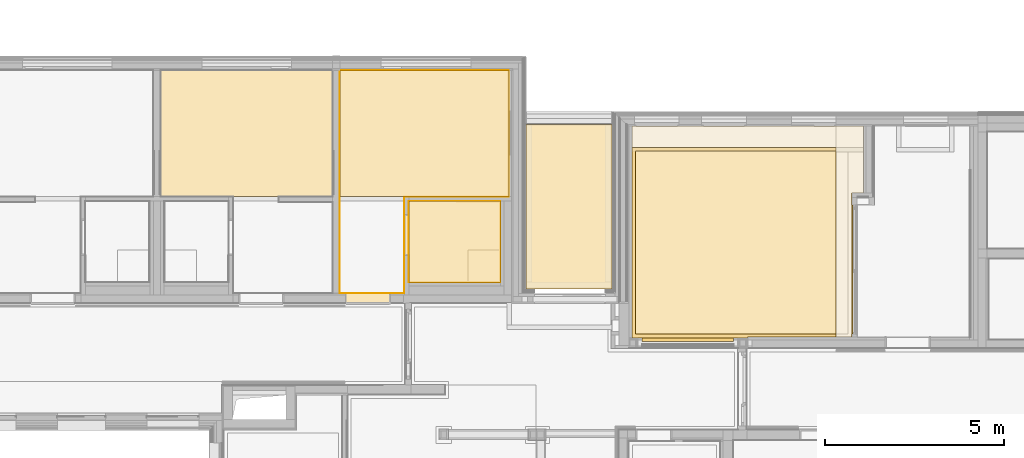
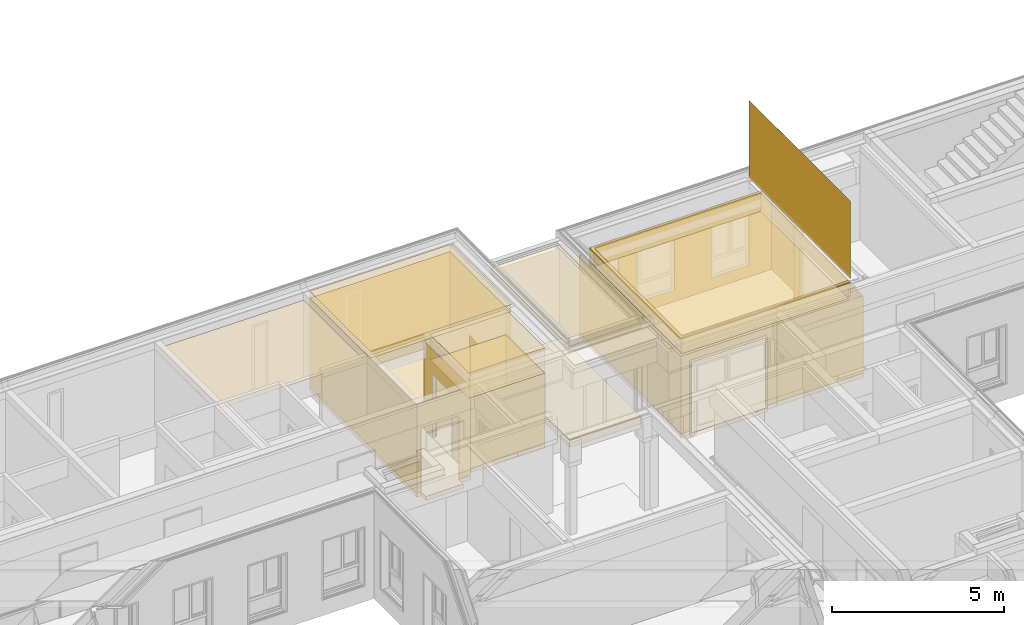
# One storey, part 179 of 222: 30 coverings.
"""IFC4 building model written with IfcOpenShell, lengths in metres."""

from ifc_helpers import new_model, entity, si_unit, converted_unit, derived_unit, frame, frame_2d, origin, place, context, subcontext, project, spatial, polyline, rectangle, outline, extrude, material, layer, layer_set, layer_usage, element, save


model = new_model("IFC4")

# Units and contexts
model_context = context("Model", 3, precision=1e-05, world=origin())
body_context = subcontext(model_context, "Body", "Model", "MODEL_VIEW")
ifc_project = project(units=[si_unit("LENGTHUNIT", "METRE"), si_unit("AREAUNIT", "SQUARE_METRE"), si_unit("VOLUMEUNIT", "CUBIC_METRE"), si_unit("MASSUNIT", "GRAM", prefix="KILO"), converted_unit("PLANEANGLEUNIT", "DEGREE", entity("IfcPlaneAngleMeasure", 0.0174532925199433), si_unit("PLANEANGLEUNIT", "RADIAN"), dimensions=[0, 0, 0, 0, 0, 0, 0]), derived_unit("THERMALTRANSMITTANCEUNIT", [(si_unit("POWERUNIT", "WATT"), 1), (si_unit("THERMODYNAMICTEMPERATUREUNIT", "KELVIN"), -1), (si_unit("LENGTHUNIT", "METRE"), -2)]), derived_unit("VOLUMETRICFLOWRATEUNIT", [(si_unit("LENGTHUNIT", "METRE"), 3), (converted_unit("TIMEUNIT", "hour", entity("IfcTimeMeasure", 3600.0), si_unit("TIMEUNIT", "SECOND"), dimensions=[0, 0, 1, 0, 0, 0, 0]), -1), (si_unit("LENGTHUNIT", "METRE"), -1)])], contexts=[model_context])

# Site, building, storey, space
site_placement = place(None, origin())
site = spatial("IfcSite", under=ifc_project, at=site_placement, Name="Psychiatrie Neubau Wunstorf", CompositionType="ELEMENT")
building_placement = place(site_placement, origin())
building = spatial("IfcBuilding", under=site, at=building_placement, Name="Neubau H2 Stationsgebäude", CompositionType="ELEMENT")
storey_placement = place(building_placement, frame((0.0, 0.0, 3.6)))
storey = spatial("IfcBuildingStorey", under=building, at=storey_placement, Name="H2 Ebene +1", CompositionType="ELEMENT", Elevation=3.6)
space_1_placement = place(storey_placement, frame((35.2910006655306, 24.5160036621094, -0.128)))
space_1 = spatial("IfcSpace", under=storey, at=space_1_placement, Name="WUN-H2-E01-L01", CompositionType="ELEMENT")

# Coverings
ifc_material_1 = material(Name="Installationshöhe")
ifc_layer_1 = layer(ifc_material_1, 0.18)
ifc_layer_set_1 = layer_set([ifc_layer_1])
ifc_layer_usage_1 = layer_usage(ifc_layer_set_1, "AXIS3", "POSITIVE", 0.0)
covering_1_placement = place(space_1_placement, frame((0.0, 0.0, 3.598)))
element("IfcCovering", 1, at=covering_1_placement, inside=space_1, material=ifc_layer_usage_1, PredefinedType="CEILING", context=body_context, shape_type="SweptSolid", body=[
    extrude(rectangle(XDim=2.39449933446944, YDim=4.58149623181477, at=frame_2d((1.19724966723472, 2.29074811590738), x_axis=(1.0, 0.0))), frame((0.0, 4.58149623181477, 0.0), z_axis=(0.0, 0.0, -1.0), x_axis=(1.0, 0.0, 0.0)), (0.0, 0.0, 1.0), 0.18),
])
ifc_material_2 = material(Name="-")
ifc_layer_2 = layer(ifc_material_2, 0.045)
ifc_layer_set_2 = layer_set([ifc_layer_2])
ifc_layer_usage_2 = layer_usage(ifc_layer_set_2, "AXIS3", "POSITIVE", 0.0)
covering_2_placement = place(space_1_placement, frame((0.0, 0.0, 3.418)))
element("IfcCovering", 2, at=covering_2_placement, inside=space_1, material=ifc_layer_usage_2, PredefinedType="CEILING", context=body_context, shape_type="SweptSolid", body=[
    extrude(rectangle(XDim=2.39449933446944, YDim=4.58149623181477, at=frame_2d((1.19724966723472, 2.29074811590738), x_axis=(1.0, 0.0))), frame((0.0, 4.58149623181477, 0.0), z_axis=(0.0, 0.0, -1.0), x_axis=(1.0, 0.0, 0.0)), (0.0, 0.0, 1.0), 0.045),
])
ifc_material_3 = material()
ifc_layer_3 = layer(ifc_material_3, 0.25)
ifc_layer_set_3 = layer_set([ifc_layer_3])
ifc_layer_usage_3 = layer_usage(ifc_layer_set_3, "AXIS3", "POSITIVE", 0.0)
covering_3_placement = place(space_1_placement, origin())
element("IfcCovering", 3, at=covering_3_placement, inside=space_1, material=ifc_layer_usage_3, Name="Unterbodenaufbau (Stelzen + Estrich)", PredefinedType="FLOORING", context=body_context, shape_type="SweptSolid", body=[
    extrude(rectangle(XDim=2.39449933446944, YDim=4.58149623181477, at=frame_2d((-1.19724966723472, -2.29074811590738), x_axis=(-1.0, 0.0))), frame((2.39449933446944, 4.58149623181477, 0.0), z_axis=(0.0, 0.0, 1.0), x_axis=(1.0, 0.0, 0.0)), (0.0, 0.0, 1.0), 0.25),
])
ifc_material_4 = material(Name="FP2")
ifc_layer_4 = layer(ifc_material_4, 0.03)
ifc_layer_set_4 = layer_set([ifc_layer_4])
ifc_layer_usage_4 = layer_usage(ifc_layer_set_4, "AXIS3", "POSITIVE", 0.0)
covering_4_placement = place(space_1_placement, frame((0.0, 0.0, 0.25)))
element("IfcCovering", 4, at=covering_4_placement, inside=space_1, material=ifc_layer_usage_4, Name="Feinsteinzeugplatten 40x40x3", PredefinedType="FLOORING", context=body_context, shape_type="SweptSolid", body=[
    extrude(rectangle(XDim=2.39449933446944, YDim=4.58149623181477, at=frame_2d((-1.19724966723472, -2.29074811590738), x_axis=(-1.0, 0.0))), frame((2.39449933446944, 4.58149623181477, 0.0), z_axis=(0.0, 0.0, 1.0), x_axis=(1.0, 0.0, 0.0)), (0.0, 0.0, 1.0), 0.03),
])

# Space
space_2_placement = place(storey_placement, frame((30.1, 24.3895, 0.0)))
space_2 = spatial("IfcSpace", under=storey, at=space_2_placement, Name="WUN-H2-E01-047", CompositionType="ELEMENT")

# Coverings
ifc_material_5 = material(Name="84")
ifc_layer_5 = layer(ifc_material_5, 0.001)
ifc_layer_set_5 = layer_set([ifc_layer_5])
ifc_layer_usage_5 = layer_usage(ifc_layer_set_5, "AXIS3", "POSITIVE", 0.0)
covering_5_placement = place(space_2_placement, frame((4.714, 3.73450366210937, 0.1)))
element("IfcCovering", 5, at=covering_5_placement, inside=space_2, material=ifc_layer_usage_5, Name="Acrovyn", PredefinedType="CLADDING", context=body_context, shape_type="SweptSolid", body=[
    extrude(rectangle(XDim=1.4, YDim=0.9, at=frame_2d((0.7, -0.45), x_axis=(1.0, 0.0))), frame((0.0, 0.0, 0.0), z_axis=(-1.0, 0.0, 0.0), x_axis=(0.0, 1.0, 0.0)), (0.0, 0.0, 1.0), 0.001),
])
ifc_material_6 = material(Name="Ku1")
ifc_layer_6 = layer(ifc_material_6, 0.15)
ifc_layer_set_6 = layer_set([ifc_layer_6])
ifc_layer_usage_6 = layer_usage(ifc_layer_set_6, "AXIS3", "POSITIVE", 0.0)
covering_6_placement = place(space_2_placement, frame((0.0, -0.271999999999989, 0.0)))
element("IfcCovering", 6, at=covering_6_placement, inside=space_2, material=ifc_layer_usage_6, Name="PVC Bahnenware Holzoptik", PredefinedType="FLOORING", context=body_context, shape_type="SweptSolid", body=[
    extrude(rectangle(XDim=0.271999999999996, YDim=1.26, at=frame_2d((0.63, -0.135999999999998), x_axis=(0.0, -1.0))), frame((0.150000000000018, 0.271999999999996, 0.0), z_axis=(0.0, 0.0, 1.0), x_axis=(1.0, 0.0, 0.0)), (0.0, 0.0, 1.0), 0.15),
    extrude(outline(polyline([(0.0, 6.22100366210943), (0.0, 0.0), (1.79800000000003, 0.0), (1.79800000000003, 2.70000000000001), (4.71400000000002, 2.70000000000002), (4.714, 6.22100366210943), (0.0, 6.22100366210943)])), frame((0.0, 0.271999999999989, 0.0), z_axis=(0.0, 0.0, 1.0), x_axis=(1.0, 0.0, 0.0)), (0.0, 0.0, 1.0), 0.15),
])
ifc_material_7 = material()
ifc_layer_7 = layer(ifc_material_7, 0.036)
ifc_layer_set_7 = layer_set([ifc_layer_7])
ifc_layer_usage_7 = layer_usage(ifc_layer_set_7, "AXIS3", "POSITIVE", 0.0)
covering_7_placement = place(space_2_placement, frame((0.0, 2.70000000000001, 3.55)))
element("IfcCovering", 7, at=covering_7_placement, inside=space_2, material=ifc_layer_usage_7, Name="Gipsfaserplatten 2-lagig (BSK)", PredefinedType="CEILING", context=body_context, shape_type="SweptSolid", body=[
    extrude(rectangle(XDim=3.52100366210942, YDim=4.714, at=frame_2d((2.35699999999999, -1.76050183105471), x_axis=(-4.13288841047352e-15, -1.0))), frame((0.0, 0.0, 0.0), z_axis=(0.0, 0.0, -1.0), x_axis=(1.0, 0.0, 0.0)), (0.0, 0.0, 1.0), 0.036),
])
ifc_material_8 = material(Name="Installationshöhe")
ifc_layer_8 = layer(ifc_material_8, 0.114)
ifc_layer_set_8 = layer_set([ifc_layer_8])
ifc_layer_usage_8 = layer_usage(ifc_layer_set_8, "AXIS3", "POSITIVE", 0.0)
covering_8_placement = place(space_2_placement, frame((0.0, 2.70000000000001, 3.514)))
element("IfcCovering", 8, at=covering_8_placement, inside=space_2, material=ifc_layer_usage_8, Name="Gipsfaserplatten 2-lagig (BSK)", PredefinedType="CEILING", context=body_context, shape_type="SweptSolid", body=[
    extrude(rectangle(XDim=3.52100366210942, YDim=4.714, at=frame_2d((2.35699999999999, -1.76050183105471), x_axis=(-4.13288841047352e-15, -1.0))), frame((0.0, 0.0, 0.0), z_axis=(0.0, 0.0, -1.0), x_axis=(1.0, 0.0, 0.0)), (0.0, 0.0, 1.0), 0.114),
])
ifc_material_9 = material(Name="A1")
ifc_layer_9 = layer(ifc_material_9, 0.1)
ifc_layer_set_9 = layer_set([ifc_layer_9])
ifc_layer_usage_9 = layer_usage(ifc_layer_set_9, "AXIS3", "POSITIVE", 0.0)
covering_9_placement = place(space_2_placement, frame((0.0, 2.70000000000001, 3.4)))
element("IfcCovering", 9, at=covering_9_placement, inside=space_2, material=ifc_layer_usage_9, Name="Gipsfaserplatten 2-lagig (BSK)", PredefinedType="CEILING", context=body_context, shape_type="SweptSolid", body=[
    extrude(rectangle(XDim=3.52100366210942, YDim=4.714, at=frame_2d((2.35699999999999, -1.76050183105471), x_axis=(-4.13288841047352e-15, -1.0))), frame((0.0, 0.0, 0.0), z_axis=(0.0, 0.0, -1.0), x_axis=(1.0, 0.0, 0.0)), (0.0, 0.0, 1.0), 0.1),
])
ifc_material_10 = material(Name="D1")
ifc_layer_10 = layer(ifc_material_10, 0.001)
ifc_layer_set_10 = layer_set([ifc_layer_10])
ifc_layer_usage_10 = layer_usage(ifc_layer_set_10, "AXIS3", "POSITIVE", 0.0)
covering_10_placement = place(space_2_placement, frame((0.0, 2.70000000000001, 3.3)))
element("IfcCovering", 10, at=covering_10_placement, inside=space_2, material=ifc_layer_usage_10, Name="Gipsfaserplatten 2-lagig (BSK)", PredefinedType="CEILING", context=body_context, shape_type="SweptSolid", body=[
    extrude(rectangle(XDim=3.52100366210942, YDim=4.714, at=frame_2d((2.35699999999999, -1.76050183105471), x_axis=(-4.13288841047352e-15, -1.0))), frame((0.0, 0.0, 0.0), z_axis=(0.0, 0.0, -1.0), x_axis=(1.0, 0.0, 0.0)), (0.0, 0.0, 1.0), 0.001),
])
ifc_material_11 = material(Name="49")
ifc_layer_11 = layer(ifc_material_11, 0.001)
ifc_layer_set_11 = layer_set([ifc_layer_11])
ifc_layer_usage_11 = layer_usage(ifc_layer_set_11, "AXIS3", "POSITIVE", 0.0)
covering_11_placement = place(space_2_placement, frame((0.0, 0.0, 0.15)))
element("IfcCovering", 11, at=covering_11_placement, inside=space_2, material=ifc_layer_usage_11, PredefinedType="CLADDING", context=body_context, shape_type="SweptSolid", body=[
    extrude(outline(polyline([(0.0, 3.15), (1.03450366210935, 3.15), (1.03450366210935, 2.3), (2.43450366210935, 2.3), (2.43450366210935, 3.15), (3.52100366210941, 3.15), (3.52100366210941, 0.0), (0.0, 0.0), (0.0, 3.15)])), frame((4.71400000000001, 2.70000000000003, 3.15), z_axis=(-1.0, -5.44491647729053e-15, -7.8147911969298e-16), x_axis=(-5.44491647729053e-15, 1.0, 0.0)), (0.0, 0.0, 1.0), 0.001),
    extrude(rectangle(XDim=4.714, YDim=3.15, at=frame_2d((2.357, -1.575), x_axis=(1.0, 0.0))), frame((4.714, 6.22100366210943, 0.0), z_axis=(0.0, -1.0, 0.0), x_axis=(-1.0, 0.0, 0.0)), (0.0, 0.0, 1.0), 0.001),
    extrude(rectangle(XDim=6.22100366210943, YDim=3.15, at=frame_2d((3.11050183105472, -1.575), x_axis=(1.0, 0.0))), frame((0.0, 6.22100366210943, 0.0), z_axis=(1.0, 3.50873814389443e-15, 0.0), x_axis=(3.50873814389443e-15, -1.0, 0.0)), (0.0, 0.0, 1.0), 0.001),
    extrude(outline(polyline([(0.0, 3.15), (0.15, 3.15), (0.15, 0.89), (1.41, 0.89), (1.41, 3.15), (1.798, 3.15), (1.798, 0.0), (0.0, 0.0), (0.0, 3.15)])), frame((0.0, 0.0, 3.15), z_axis=(0.0, 1.0, -6.73388025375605e-16), x_axis=(1.0, 0.0, 0.0)), (0.0, 0.0, 1.0), 0.001),
    extrude(outline(polyline([(0.0, 3.15), (1.06500000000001, 3.15), (1.06500000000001, 0.89), (2.20000000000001, 0.89), (2.20000000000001, 3.15), (2.70000000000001, 3.15), (2.70000000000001, 0.0), (0.0, 0.0), (0.0, 3.15)])), frame((1.79800000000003, 0.0, 3.15), z_axis=(-1.0, 0.0, 4.33046726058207e-16), x_axis=(0.0, 1.0, 0.0)), (0.0, 0.0, 1.0), 0.001),
    extrude(rectangle(XDim=2.91599999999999, YDim=3.15, at=frame_2d((1.458, -1.575), x_axis=(1.0, 0.0))), frame((1.79800000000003, 2.70000000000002, 0.0), z_axis=(-3.74277655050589e-15, 1.0, 0.0), x_axis=(1.0, 3.74277655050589e-15, 0.0)), (0.0, 0.0, 1.0), 0.001),
])

# Space
space_3_placement = place(storey_placement, frame((25.1, 24.3895, 0.0)))
space_3 = spatial("IfcSpace", under=storey, at=space_3_placement, Name="WUN-H2-E01-046", CompositionType="ELEMENT")

# Covering
ifc_material_12 = material(Name="D1")
ifc_layer_12 = layer(ifc_material_12, 0.001)
ifc_layer_set_12 = layer_set([ifc_layer_12])
ifc_layer_usage_12 = layer_usage(ifc_layer_set_12, "AXIS3", "POSITIVE", 0.0)
covering_12_placement = place(space_3_placement, frame((0.0, 2.70000000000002, 3.3)))
element("IfcCovering", 12, at=covering_12_placement, inside=space_3, material=ifc_layer_usage_12, Name="Gipsfaserplatten 2-lagig (BSK)", PredefinedType="CEILING", context=body_context, shape_type="SweptSolid", body=[
    extrude(rectangle(XDim=3.52100366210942, YDim=4.79999999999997, at=frame_2d((2.39999999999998, -1.7605018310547), x_axis=(-5.16611051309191e-15, -1.0))), frame((0.0, 0.0, 0.0), z_axis=(0.0, 0.0, -1.0), x_axis=(1.0, 0.0, 0.0)), (0.0, 0.0, 1.0), 0.001),
])

# Space
space_4_placement = place(storey_placement, frame((32.023, 24.6995, 0.0)))
space_4 = spatial("IfcSpace", under=storey, at=space_4_placement, Name="WUN-H2-E01-047a", CompositionType="ELEMENT")

# Coverings
ifc_material_13 = material(Name="Fl2")
ifc_layer_13 = layer(ifc_material_13, 0.15)
ifc_layer_set_13 = layer_set([ifc_layer_13])
ifc_layer_usage_13 = layer_usage(ifc_layer_set_13, "AXIS3", "POSITIVE", 0.0)
covering_13_placement = place(space_4_placement, frame((1.65599999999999, 0.0, 0.0)))
element("IfcCovering", 13, at=covering_13_placement, inside=space_4, material=ifc_layer_usage_13, Name="Fliesen Mosaik", PredefinedType="FLOORING", context=body_context, shape_type="SweptSolid", body=[
    extrude(rectangle(XDim=0.9, YDim=0.9, at=frame_2d((-0.45, 0.45), x_axis=(0.0, 1.0))), frame((0.9, 0.0, 0.0), z_axis=(0.0, 0.0, 1.0), x_axis=(1.0, 0.0, 0.0)), (0.0, 0.0, 1.0), 0.15),
])
ifc_material_14 = material(Name="Fl1")
ifc_layer_14 = layer(ifc_material_14, 0.15)
ifc_layer_set_14 = layer_set([ifc_layer_14])
ifc_layer_usage_14 = layer_usage(ifc_layer_set_14, "AXIS3", "POSITIVE", 0.0)
covering_14_placement = place(space_4_placement, frame((-0.125, 0.0, 0.0)))
element("IfcCovering", 14, at=covering_14_placement, inside=space_4, material=ifc_layer_usage_14, Name="Fliesen", PredefinedType="FLOORING", context=body_context, shape_type="SweptSolid", body=[
    extrude(rectangle(XDim=0.125, YDim=1.135, at=frame_2d((0.0625, 0.5675), x_axis=(1.0, 0.0))), frame((0.0, 0.755000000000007, 0.0), z_axis=(0.0, 0.0, 1.0), x_axis=(1.0, 0.0, 0.0)), (0.0, 0.0, 1.0), 0.15),
    extrude(outline(polyline([(0.0, 2.26500000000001), (0.0, 0.0), (2.55600000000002, 0.0), (2.55600000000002, 2.265), (0.0, 2.26500000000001)]), holes=[polyline([(1.65599999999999, 0.0), (1.65599999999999, 0.900000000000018), (2.55599999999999, 0.900000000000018), (2.55600000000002, 0.0), (1.65599999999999, 0.0)])]), frame((0.125, 0.0, 0.0), z_axis=(0.0, 0.0, 1.0), x_axis=(1.0, 0.0, 0.0)), (0.0, 0.0, 1.0), 0.15),
])
ifc_material_15 = material()
ifc_layer_15 = layer(ifc_material_15, 0.036)
ifc_layer_set_15 = layer_set([ifc_layer_15])
ifc_layer_usage_15 = layer_usage(ifc_layer_set_15, "AXIS3", "POSITIVE", 0.0)
covering_15_placement = place(space_4_placement, frame((0.0, 0.0, 3.55)))
element("IfcCovering", 15, at=covering_15_placement, inside=space_4, material=ifc_layer_usage_15, Name="Gipsfaserplatten 2-lagig (BSK)", PredefinedType="CEILING", context=body_context, shape_type="SweptSolid", body=[
    extrude(rectangle(XDim=2.26500000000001, YDim=2.55600000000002, at=frame_2d((1.27800000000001, -1.1325), x_axis=(0.0, -1.0))), frame((0.0, 0.0, 0.0), z_axis=(0.0, 0.0, -1.0), x_axis=(1.0, 0.0, 0.0)), (0.0, 0.0, 1.0), 0.036),
])
ifc_material_16 = material(Name="Installationshöhe")
ifc_layer_16 = layer(ifc_material_16, 0.764)
ifc_layer_set_16 = layer_set([ifc_layer_16])
ifc_layer_usage_16 = layer_usage(ifc_layer_set_16, "AXIS3", "POSITIVE", 0.0)
covering_16_placement = place(space_4_placement, frame((0.0, 0.0, 3.514)))
element("IfcCovering", 16, at=covering_16_placement, inside=space_4, material=ifc_layer_usage_16, Name="Gipsfaserplatten 2-lagig (BSK)", PredefinedType="CEILING", context=body_context, shape_type="SweptSolid", body=[
    extrude(rectangle(XDim=2.26500000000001, YDim=2.55600000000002, at=frame_2d((1.27800000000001, -1.1325), x_axis=(0.0, -1.0))), frame((0.0, 0.0, 0.0), z_axis=(0.0, 0.0, -1.0), x_axis=(1.0, 0.0, 0.0)), (0.0, 0.0, 1.0), 0.764),
])
ifc_material_17 = material(Name="B")
ifc_layer_17 = layer(ifc_material_17, 0.1)
ifc_layer_set_17 = layer_set([ifc_layer_17])
ifc_layer_usage_17 = layer_usage(ifc_layer_set_17, "AXIS3", "POSITIVE", 0.0)
covering_17_placement = place(space_4_placement, frame((0.0, 0.0, 2.75)))
element("IfcCovering", 17, at=covering_17_placement, inside=space_4, material=ifc_layer_usage_17, Name="Gipskarton, imprägniert", PredefinedType="CEILING", context=body_context, shape_type="SweptSolid", body=[
    extrude(rectangle(XDim=2.26500000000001, YDim=2.55600000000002, at=frame_2d((1.27800000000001, -1.1325), x_axis=(0.0, -1.0))), frame((0.0, 0.0, 0.0), z_axis=(0.0, 0.0, -1.0), x_axis=(1.0, 0.0, 0.0)), (0.0, 0.0, 1.0), 0.1),
])
ifc_material_18 = material(Name="D1")
ifc_layer_18 = layer(ifc_material_18, 0.001)
ifc_layer_set_18 = layer_set([ifc_layer_18])
ifc_layer_usage_18 = layer_usage(ifc_layer_set_18, "AXIS3", "POSITIVE", 0.0)
covering_18_placement = place(space_4_placement, frame((0.0, 0.0, 2.65)))
element("IfcCovering", 18, at=covering_18_placement, inside=space_4, material=ifc_layer_usage_18, Name="Gipsfaserplatten 2-lagig (BSK)", PredefinedType="CEILING", context=body_context, shape_type="SweptSolid", body=[
    extrude(rectangle(XDim=2.26500000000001, YDim=2.55600000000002, at=frame_2d((1.27800000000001, -1.1325), x_axis=(0.0, -1.0))), frame((0.0, 0.0, 0.0), z_axis=(0.0, 0.0, -1.0), x_axis=(1.0, 0.0, 0.0)), (0.0, 0.0, 1.0), 0.001),
])
ifc_material_19 = material(Name="50")
ifc_layer_19 = layer(ifc_material_19, 0.001)
ifc_layer_set_19 = layer_set([ifc_layer_19])
ifc_layer_usage_19 = layer_usage(ifc_layer_set_19, "AXIS3", "POSITIVE", 0.0)
covering_19_placement = place(space_4_placement, frame((0.0, 0.74, 0.15)))
element("IfcCovering", 19, at=covering_19_placement, inside=space_4, material=ifc_layer_usage_19, PredefinedType="CLADDING", context=body_context, shape_type="SweptSolid", body=[
    extrude(rectangle(XDim=1.35600000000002, YDim=2.5, at=frame_2d((0.678000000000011, -1.25), x_axis=(1.0, 0.0))), frame((1.35600000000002, 1.52500000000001, 0.0), z_axis=(0.0, -1.0, 0.0), x_axis=(-1.0, 0.0, 0.0)), (0.0, 0.0, 1.0), 0.001),
    extrude(outline(polyline([(0.0, 2.5), (0.375, 2.5), (0.375, 0.24), (1.51, 0.24), (1.51, 2.5), (1.52500000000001, 2.5), (1.52500000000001, 0.0), (0.0, 0.0), (0.0, 2.5)])), frame((0.0, 1.52500000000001, 2.5), z_axis=(1.0, 0.0, -8.21393876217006e-16), x_axis=(0.0, -1.0, 0.0)), (0.0, 0.0, 1.0), 0.001),
])
ifc_material_20 = material(Name="68")
ifc_layer_20 = layer(ifc_material_20, 0.01)
ifc_layer_set_20 = layer_set([ifc_layer_20])
ifc_layer_usage_20 = layer_usage(ifc_layer_set_20, "AXIS3", "POSITIVE", 0.0)
covering_20_placement = place(space_4_placement, frame((0.0, 0.0, 0.15)))
element("IfcCovering", 20, at=covering_20_placement, inside=space_4, material=ifc_layer_usage_20, Name="a-sh Wandbelag", PredefinedType="CLADDING", context=body_context, shape_type="SweptSolid", body=[
    extrude(rectangle(XDim=0.739999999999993, YDim=2.5, at=frame_2d((0.369999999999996, -1.25), x_axis=(1.0, 0.0))), frame((0.0, 0.739999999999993, 0.0), z_axis=(1.0, 9.83237515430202e-15, 0.0), x_axis=(9.83237515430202e-15, -1.0, 0.0)), (0.0, 0.0, 1.0), 0.01),
    extrude(rectangle(XDim=2.265, YDim=2.5, at=frame_2d((1.1325, -1.25), x_axis=(1.0, 0.0))), frame((2.55600000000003, 0.0, 0.0), z_axis=(-1.0, 0.0, 0.0), x_axis=(0.0, 1.0, 0.0)), (0.0, 0.0, 1.0), 0.01),
    extrude(rectangle(XDim=1.2, YDim=2.5, at=frame_2d((0.6, -1.25), x_axis=(1.0, 0.0))), frame((2.55600000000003, 2.265, 0.0), z_axis=(0.0, -1.0, 0.0), x_axis=(-1.0, 0.0, 0.0)), (0.0, 0.0, 1.0), 0.01),
    extrude(rectangle(XDim=2.55600000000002, YDim=2.5, at=frame_2d((1.27800000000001, -1.25), x_axis=(1.0, 0.0))), frame((0.0, 0.0, 0.0), z_axis=(1.42330939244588e-15, 1.0, 0.0), x_axis=(1.0, -1.42330939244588e-15, 0.0)), (0.0, 0.0, 1.0), 0.01),
])

# Space
space_5_placement = place(storey_placement, frame((38.244, 23.1539990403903, 0.0)))
space_5 = spatial("IfcSpace", under=storey, at=space_5_placement, Name="WUN-H2-E01-008", CompositionType="ELEMENT")

# Coverings
ifc_material_21 = material()
ifc_layer_21 = layer(ifc_material_21, 0.036)
ifc_layer_set_21 = layer_set([ifc_layer_21])
ifc_layer_usage_21 = layer_usage(ifc_layer_set_21, "AXIS3", "POSITIVE", 0.0)
covering_21_placement = place(space_5_placement, frame((0.0, 0.0, 3.55)))
element("IfcCovering", 21, at=covering_21_placement, inside=space_5, material=ifc_layer_usage_21, Name="Gipsfaserplatten 2-lagig (BSK)", PredefinedType="CEILING", context=body_context, shape_type="SweptSolid", body=[
    extrude(outline(polyline([(0.1, 5.20999698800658), (5.69350000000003, 5.20999698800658), (5.69350000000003, 5.29299969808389), (3.22400000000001, 5.29299969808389), (3.22400000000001, 5.31000065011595), (0.0, 5.30999698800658), (0.0, 0.0), (5.69350000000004, 0.0), (5.69350000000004, 0.1), (0.1, 0.1), (0.1, 5.20999698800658)])), frame((0.0, 5.31000065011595, 0.0), z_axis=(0.0, 0.0, -1.0), x_axis=(1.0, 0.0, 0.0)), (0.0, 0.0, 1.0), 0.036),
])
ifc_material_22 = material(Name="Installationshöhe")
ifc_layer_22 = layer(ifc_material_22, 0.464)
ifc_layer_set_22 = layer_set([ifc_layer_22])
ifc_layer_usage_22 = layer_usage(ifc_layer_set_22, "AXIS3", "POSITIVE", 0.0)
covering_22_placement = place(space_5_placement, frame((0.0, 0.0, 3.514)))
element("IfcCovering", 22, at=covering_22_placement, inside=space_5, material=ifc_layer_usage_22, Name="Gipsfaserplatten 2-lagig (BSK)", PredefinedType="CEILING", context=body_context, shape_type="SweptSolid", body=[
    extrude(outline(polyline([(0.1, 5.20999698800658), (5.69350000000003, 5.20999698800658), (5.69350000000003, 5.29299969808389), (3.22400000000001, 5.29299969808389), (3.22400000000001, 5.31000065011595), (0.0, 5.30999698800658), (0.0, 0.0), (5.69350000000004, 0.0), (5.69350000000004, 0.1), (0.1, 0.1), (0.1, 5.20999698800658)])), frame((0.0, 5.31000065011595, 0.0), z_axis=(0.0, 0.0, -1.0), x_axis=(1.0, 0.0, 0.0)), (0.0, 0.0, 1.0), 0.464),
])
ifc_material_23 = material(Name="A1")
ifc_layer_23 = layer(ifc_material_23, 0.15)
ifc_layer_set_23 = layer_set([ifc_layer_23])
ifc_layer_usage_23 = layer_usage(ifc_layer_set_23, "AXIS3", "POSITIVE", 0.0)
covering_23_placement = place(space_5_placement, frame((0.0, 0.0, 3.05)))
element("IfcCovering", 23, at=covering_23_placement, inside=space_5, material=ifc_layer_usage_23, Name="Gipsfaserplatten 2-lagig (BSK)", PredefinedType="CEILING", context=body_context, shape_type="SweptSolid", body=[
    extrude(outline(polyline([(0.1, 5.20999698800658), (5.69350000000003, 5.20999698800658), (5.69350000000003, 5.29299969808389), (3.22400000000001, 5.29299969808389), (3.22400000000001, 5.31000065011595), (0.0, 5.30999698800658), (0.0, 0.0), (5.69350000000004, 0.0), (5.69350000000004, 0.1), (0.1, 0.1), (0.1, 5.20999698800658)])), frame((0.0, 5.31000065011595, 0.0), z_axis=(0.0, 0.0, -1.0), x_axis=(1.0, 0.0, 0.0)), (0.0, 0.0, 1.0), 0.15),
])
ifc_material_24 = material(Name="D1")
ifc_layer_24 = layer(ifc_material_24, 0.001)
ifc_layer_set_24 = layer_set([ifc_layer_24])
ifc_layer_usage_24 = layer_usage(ifc_layer_set_24, "AXIS3", "POSITIVE", 0.0)
covering_24_placement = place(space_5_placement, frame((0.0, 0.0, 2.9)))
element("IfcCovering", 24, at=covering_24_placement, inside=space_5, material=ifc_layer_usage_24, Name="Gipsfaserplatten 2-lagig (BSK)", PredefinedType="CEILING", context=body_context, shape_type="SweptSolid", body=[
    extrude(outline(polyline([(0.1, 5.20999698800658), (5.69350000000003, 5.20999698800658), (5.69350000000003, 5.29299969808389), (3.22400000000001, 5.29299969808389), (3.22400000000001, 5.31000065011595), (0.0, 5.30999698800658), (0.0, 0.0), (5.69350000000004, 0.0), (5.69350000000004, 0.1), (0.1, 0.1), (0.1, 5.20999698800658)])), frame((0.0, 5.31000065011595, 0.0), z_axis=(0.0, 0.0, -1.0), x_axis=(1.0, 0.0, 0.0)), (0.0, 0.0, 1.0), 0.001),
])
ifc_material_25 = material()
ifc_layer_25 = layer(ifc_material_25, 0.036)
ifc_layer_set_25 = layer_set([ifc_layer_25])
ifc_layer_usage_25 = layer_usage(ifc_layer_set_25, "AXIS3", "POSITIVE", 0.0)
covering_25_placement = place(space_5_placement, frame((0.1, 0.100003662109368, 3.55)))
element("IfcCovering", 25, at=covering_25_placement, inside=space_5, material=ifc_layer_usage_25, Name="Gipsfaserplatten 2-lagig (BSK)", PredefinedType="CEILING", context=body_context, shape_type="SweptSolid", body=[
    extrude(rectangle(XDim=5.10999698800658, YDim=5.59350000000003, at=frame_2d((-2.79675000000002, 2.55499849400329), x_axis=(-1.42386729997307e-15, 1.0))), frame((5.59350000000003, 5.10999698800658, 0.0), z_axis=(0.0, 0.0, -1.0), x_axis=(1.0, 0.0, 0.0)), (0.0, 0.0, 1.0), 0.036),
])
ifc_material_26 = material(Name="Installationshöhe")
ifc_layer_26 = layer(ifc_material_26, 0.464)
ifc_layer_set_26 = layer_set([ifc_layer_26])
ifc_layer_usage_26 = layer_usage(ifc_layer_set_26, "AXIS3", "POSITIVE", 0.0)
covering_26_placement = place(space_5_placement, frame((0.1, 0.100003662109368, 3.514)))
element("IfcCovering", 26, at=covering_26_placement, inside=space_5, material=ifc_layer_usage_26, Name="Gipsfaserplatten 2-lagig (BSK)", PredefinedType="CEILING", context=body_context, shape_type="SweptSolid", body=[
    extrude(rectangle(XDim=5.10999698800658, YDim=5.59350000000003, at=frame_2d((-2.79675000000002, 2.55499849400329), x_axis=(-1.42386729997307e-15, 1.0))), frame((5.59350000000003, 5.10999698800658, 0.0), z_axis=(0.0, 0.0, -1.0), x_axis=(1.0, 0.0, 0.0)), (0.0, 0.0, 1.0), 0.464),
])
ifc_material_27 = material(Name="Aa")
ifc_layer_27 = layer(ifc_material_27, 0.15)
ifc_layer_set_27 = layer_set([ifc_layer_27])
ifc_layer_usage_27 = layer_usage(ifc_layer_set_27, "AXIS3", "POSITIVE", 0.0)
covering_27_placement = place(space_5_placement, frame((0.1, 0.100003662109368, 3.05)))
element("IfcCovering", 27, at=covering_27_placement, inside=space_5, material=ifc_layer_usage_27, Name="Gipsfaserplatten 2-lagig (BSK)", PredefinedType="CEILING", context=body_context, shape_type="SweptSolid", body=[
    extrude(rectangle(XDim=5.10999698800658, YDim=5.59350000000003, at=frame_2d((-2.79675000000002, 2.55499849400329), x_axis=(-1.42386729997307e-15, 1.0))), frame((5.59350000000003, 5.10999698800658, 0.0), z_axis=(0.0, 0.0, -1.0), x_axis=(1.0, 0.0, 0.0)), (0.0, 0.0, 1.0), 0.15),
])
ifc_material_28 = material(Name="D1")
ifc_layer_28 = layer(ifc_material_28, 0.001)
ifc_layer_set_28 = layer_set([ifc_layer_28])
ifc_layer_usage_28 = layer_usage(ifc_layer_set_28, "AXIS3", "POSITIVE", 0.0)
covering_28_placement = place(space_5_placement, frame((0.1, 0.100003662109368, 2.9)))
element("IfcCovering", 28, at=covering_28_placement, inside=space_5, material=ifc_layer_usage_28, Name="Gipsfaserplatten 2-lagig (BSK)", PredefinedType="CEILING", context=body_context, shape_type="SweptSolid", body=[
    extrude(rectangle(XDim=5.10999698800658, YDim=5.59350000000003, at=frame_2d((-2.79675000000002, 2.55499849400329), x_axis=(-1.42386729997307e-15, 1.0))), frame((5.59350000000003, 5.10999698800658, 0.0), z_axis=(0.0, 0.0, -1.0), x_axis=(1.0, 0.0, 0.0)), (0.0, 0.0, 1.0), 0.001),
])
ifc_material_29 = material(Name="Ku1")
ifc_layer_29 = layer(ifc_material_29, 0.15)
ifc_layer_set_29 = layer_set([ifc_layer_29])
ifc_layer_usage_29 = layer_usage(ifc_layer_set_29, "AXIS3", "POSITIVE", 0.0)
covering_29_placement = place(space_5_placement, frame((0.0, -0.104996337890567, 0.0)))
element("IfcCovering", 29, at=covering_29_placement, inside=space_5, material=ifc_layer_usage_29, Name="PVC Bahnenware Holzoptik", PredefinedType="FLOORING", context=body_context, shape_type="SweptSolid", body=[
    extrude(rectangle(XDim=0.0350000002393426, YDim=3.60999999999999, at=frame_2d((0.0175000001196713, 1.805), x_axis=(1.0, 1.03942250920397e-13))), frame((6.13100000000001, 0.204996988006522, 0.0), z_axis=(0.0, 0.0, 1.0), x_axis=(1.0, 0.0, 0.0)), (0.0, 0.0, 1.0), 0.15),
    extrude(rectangle(XDim=0.104999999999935, YDim=2.55, at=frame_2d((1.275, -0.0524999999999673), x_axis=(0.0, -1.0))), frame((0.286250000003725, 0.104999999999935, 0.0), z_axis=(0.0, 0.0, 1.0), x_axis=(1.0, 0.0, 0.0)), (0.0, 0.0, 1.0), 0.15),
    extrude(outline(polyline([(6.456, 5.91000065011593), (0.0, 5.91000065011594), (0.0, 3.66210936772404e-06), (3.224, 0.0), (3.224, 0.0170009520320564), (6.13100000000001, 0.0170009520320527), (6.13100000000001, 4.03500065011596), (6.456, 4.03500065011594), (6.456, 5.91000065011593)])), frame((0.0, 0.104996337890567, 0.0), z_axis=(0.0, 0.0, 1.0), x_axis=(1.0, 0.0, 0.0)), (0.0, 0.0, 1.0), 0.15),
])
ifc_material_30 = material(Name="49")
ifc_layer_30 = layer(ifc_material_30, 0.001)
ifc_layer_set_30 = layer_set([ifc_layer_30])
ifc_layer_usage_30 = layer_usage(ifc_layer_set_30, "AXIS3", "POSITIVE", 0.0)
covering_30_placement = place(space_5_placement, frame((0.0, -0.104996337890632, 0.15)))
element("IfcCovering", 30, at=covering_30_placement, inside=space_5, material=ifc_layer_usage_30, PredefinedType="CLADDING", context=body_context, shape_type="SweptSolid", body=[
    extrude(rectangle(XDim=0.0170009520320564, YDim=2.75, at=frame_2d((0.00850047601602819, -1.375), x_axis=(1.0, 0.0))), frame((3.224, 0.104996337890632, 0.0), z_axis=(-1.0, 0.0, 0.0), x_axis=(0.0, 1.0, 0.0)), (0.0, 0.0, 1.0), 0.001),
    extrude(rectangle(XDim=0.27000000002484, YDim=2.75, at=frame_2d((0.13500000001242, -1.375), x_axis=(1.0, 0.0))), frame((2.954, 0.105000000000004, 0.0), z_axis=(1.356336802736e-05, 0.999999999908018, 0.0), x_axis=(0.999999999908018, -1.356336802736e-05, 0.0)), (0.0, 0.0, 1.0), 0.001),
    extrude(outline(polyline([(0.0, 2.75), (0.286250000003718, 2.75), (0.286250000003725, 0.25), (2.83625000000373, 0.25), (2.83625000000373, 2.75), (2.954, 2.75), (2.954, 0.0), (0.0, 0.0), (0.0, 2.75)])), frame((0.0, 0.105000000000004, 2.75), z_axis=(0.0, 1.0, 8.31882883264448e-16), x_axis=(1.0, 0.0, 0.0)), (0.0, 0.0, 1.0), 0.001),
    extrude(rectangle(XDim=5.90999698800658, YDim=2.75, at=frame_2d((2.95499849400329, -1.375), x_axis=(1.0, 0.0))), frame((0.0, 6.01499698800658, 0.0), z_axis=(1.0, 0.0, 0.0), x_axis=(0.0, -1.0, 0.0)), (0.0, 0.0, 1.0), 0.001),
    extrude(rectangle(XDim=5.89299969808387, YDim=2.75, at=frame_2d((2.94649984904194, -1.375), x_axis=(1.0, 0.0))), frame((5.69350000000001, 0.121997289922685, 3.51), z_axis=(-1.0, 3.70403427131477e-15, 0.0), x_axis=(3.70403427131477e-15, 1.0, 0.0)), (0.0, 0.0, 1.0), 0.001),
    extrude(outline(polyline([(0.0, 2.75), (6.456, 2.75), (6.456, 0.0), (6.38749999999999, 0.0), (6.38749999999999, 2.35), (5.13749999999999, 2.35), (5.13749999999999, 0.0), (4.51249999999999, 0.0), (4.51249999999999, 2.35), (3.26249999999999, 2.35), (3.26249999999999, 0.0), (2.01249999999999, 0.0), (2.01249999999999, 2.35), (0.762499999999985, 2.35), (0.762499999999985, 0.0), (0.0, 0.0), (0.0, 2.75)])), frame((6.456, 6.01499698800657, 2.75), z_axis=(-1.82727262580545e-15, -1.0, -2.02489107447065e-16), x_axis=(-1.0, 1.82727262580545e-15, 0.0)), (0.0, 0.0, 1.0), 0.001),
    extrude(rectangle(XDim=1.87499999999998, YDim=2.75, at=frame_2d((0.937499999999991, -1.375), x_axis=(1.0, 0.0))), frame((6.456, 4.13999698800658, 0.0), z_axis=(-1.0, 0.0, 0.0), x_axis=(0.0, 1.0, 0.0)), (0.0, 0.0, 1.0), 0.001),
    extrude(rectangle(XDim=0.324999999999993, YDim=2.75, at=frame_2d((0.162499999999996, -1.375), x_axis=(1.0, 0.0))), frame((6.13100000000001, 4.13999698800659, 0.0), z_axis=(4.47751237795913e-14, 1.0, 0.0), x_axis=(1.0, -4.47751237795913e-14, 0.0)), (0.0, 0.0, 1.0), 0.001),
    extrude(outline(polyline([(0.0, 2.75), (0.0829996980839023, 2.75), (0.0829996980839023, 0.49), (3.6929996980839, 0.49), (3.69299969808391, 2.75), (4.01799969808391, 2.75), (4.01799969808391, 0.0), (0.0, 0.0), (0.0, 2.75)])), frame((6.13100000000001, 0.121997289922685, 2.75), z_axis=(-1.0, 0.0, 0.0), x_axis=(0.0, 1.0, 0.0)), (0.0, 0.0, 1.0), 0.001),
    extrude(rectangle(XDim=2.90700000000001, YDim=2.75, at=frame_2d((1.4535, -1.375), x_axis=(1.0, 0.0))), frame((3.224, 0.121997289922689, 0.0), z_axis=(1.25145469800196e-15, 1.0, 0.0), x_axis=(1.0, -1.25145469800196e-15, 0.0)), (0.0, 0.0, 1.0), 0.001),
    extrude(rectangle(XDim=2.5, YDim=0.105, at=frame_2d((0.0525, 1.25), x_axis=(0.0, 1.0))), frame((2.83625000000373, 0.0, 2.5), z_axis=(-1.0, 0.0, 0.0), x_axis=(0.0, 1.0, 0.0)), (0.0, 0.0, 1.0), 0.001),
    extrude(rectangle(XDim=2.55, YDim=0.105, at=frame_2d((1.275, -0.0525), x_axis=(1.0, 0.0))), frame((0.286250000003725, 0.0, 2.5), z_axis=(0.0, 0.0, -1.0), x_axis=(1.0, 0.0, 0.0)), (0.0, 0.0, 1.0), 0.001),
    extrude(rectangle(XDim=0.105, YDim=2.5, at=frame_2d((0.0525, -1.25), x_axis=(1.0, 0.0))), frame((0.286250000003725, 0.105, 0.0), z_axis=(1.0, 0.0, 0.0), x_axis=(0.0, -1.0, 0.0)), (0.0, 0.0, 1.0), 0.001),
    extrude(rectangle(XDim=2.35, YDim=0.0249999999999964, at=frame_2d((-0.0124999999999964, -1.175), x_axis=(1.54807608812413e-15, -1.0))), frame((1.94350000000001, 6.01499698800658, 0.4), z_axis=(1.0, 0.0, 0.0), x_axis=(0.0, -1.0, 0.0)), (0.0, 0.0, 1.0), 0.001),
    extrude(rectangle(XDim=0.0249999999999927, YDim=2.35, at=frame_2d((0.0124999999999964, -1.175), x_axis=(1.0, 0.0))), frame((3.19350000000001, 6.01499698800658, 0.4), z_axis=(-1.0, 0.0, 0.0), x_axis=(0.0, 1.0, 0.0)), (0.0, 0.0, 1.0), 0.001),
    extrude(rectangle(XDim=2.35, YDim=0.0249999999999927, at=frame_2d((-0.0124999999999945, -1.175), x_axis=(1.54807608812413e-15, -1.0))), frame((4.44350000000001, 6.01499698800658, 0.4), z_axis=(1.0, 0.0, 0.0), x_axis=(0.0, -1.0, 0.0)), (0.0, 0.0, 1.0), 0.001),
    extrude(rectangle(XDim=0.0249999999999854, YDim=2.35, at=frame_2d((0.0124999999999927, -1.175), x_axis=(1.0, 0.0))), frame((5.69350000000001, 6.01499698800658, 0.4), z_axis=(-1.0, 1.45519152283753e-13, 1.54807608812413e-15), x_axis=(1.45519152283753e-13, 1.0, 0.0)), (0.0, 0.0, 1.0), 0.001),
    extrude(rectangle(XDim=2.35, YDim=0.0250000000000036, at=frame_2d((-0.0125, -1.175), x_axis=(1.54807608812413e-15, -1.0))), frame((0.0685000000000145, 6.01499698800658, 0.4), z_axis=(1.0, 0.0, 0.0), x_axis=(0.0, -1.0, 0.0)), (0.0, 0.0, 1.0), 0.001),
    extrude(rectangle(XDim=0.0249999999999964, YDim=2.35, at=frame_2d((0.0124999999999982, -1.175), x_axis=(1.0, 0.0))), frame((1.31850000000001, 6.01499698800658, 0.4), z_axis=(-1.0, 0.0, 0.0), x_axis=(0.0, 1.0, 0.0)), (0.0, 0.0, 1.0), 0.001),
    extrude(rectangle(XDim=2.26, YDim=0.035, at=frame_2d((0.0175, 1.13), x_axis=(0.0, 1.0))), frame((6.16600000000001, 3.81499698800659, 2.26), z_axis=(5.19711258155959e-14, -1.0, -8.04862567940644e-16), x_axis=(-1.0, -5.19711258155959e-14, 0.0)), (0.0, 0.0, 1.0), 0.001),
    extrude(rectangle(XDim=3.61, YDim=0.035, at=frame_2d((-0.0175, -1.805), x_axis=(0.0, -1.0))), frame((6.16600000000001, 0.204996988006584, 2.26), z_axis=(0.0, 0.0, -1.0), x_axis=(1.0, 0.0, 0.0)), (0.0, 0.0, 1.0), 0.001),
    extrude(rectangle(XDim=0.035, YDim=2.26, at=frame_2d((0.0175, -1.13), x_axis=(1.0, -1.2992781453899e-14))), frame((6.13100000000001, 0.204996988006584, 0.0), z_axis=(5.19711258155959e-14, 1.0, 8.04862567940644e-16), x_axis=(1.0, -5.19711258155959e-14, 0.0)), (0.0, 0.0, 1.0), 0.001),
])

save(model, "model.ifc")
